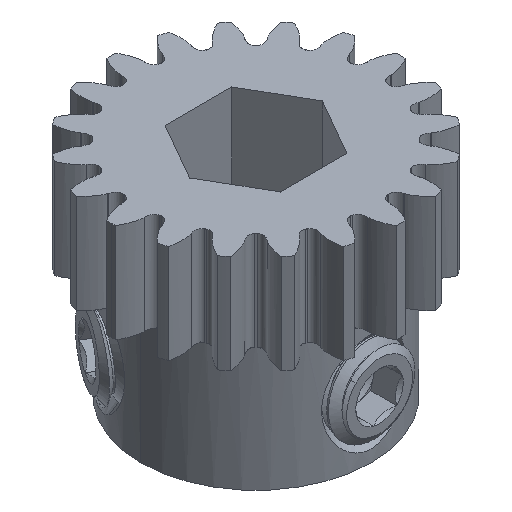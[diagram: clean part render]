
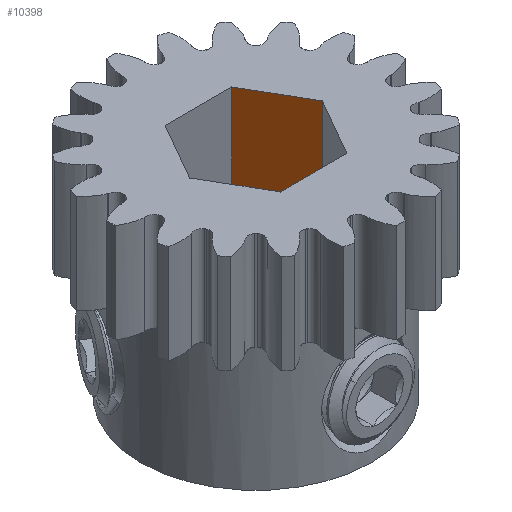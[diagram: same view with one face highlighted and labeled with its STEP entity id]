
A CAD part, isometric view. The second image highlights one B-rep face of the part: STEP entity #10398.
In plain terms, the highlighted planar face has unit normal (-0.866, -0.5, 0).
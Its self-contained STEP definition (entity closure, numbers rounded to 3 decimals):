
#287 = CARTESIAN_POINT ( 'NONE',  ( 2.021, 3.5, -8. ) ) ;
#1228 = EDGE_CURVE ( 'NONE', #20239, #5333, #3098, .T. ) ;
#2486 = CARTESIAN_POINT ( 'NONE',  ( 3.031, 1.75, 6. ) ) ;
#2581 = VECTOR ( 'NONE', #7313, 1000. ) ;
#3098 = LINE ( 'NONE', #2486, #2581 ) ;
#3298 = EDGE_CURVE ( 'NONE', #7391, #20239, #18274, .T. ) ;
#3802 = CARTESIAN_POINT ( 'NONE',  ( 3.031, 1.75, -19.092 ) ) ;
#5333 = VERTEX_POINT ( 'NONE', #15996 ) ;
#5591 = AXIS2_PLACEMENT_3D ( 'NONE', #3802, #15231, #7180 ) ;
#6133 = ORIENTED_EDGE ( 'NONE', *, *, #18257, .F. ) ;
#6154 = ORIENTED_EDGE ( 'NONE', *, *, #3298, .T. ) ;
#7102 = PLANE ( 'NONE',  #5591 ) ;
#7180 = DIRECTION ( 'NONE',  ( -0.5, 0.866, 0. ) ) ;
#7313 = DIRECTION ( 'NONE',  ( -0.5, 0.866, 0. ) ) ;
#7391 = VERTEX_POINT ( 'NONE', #9512 ) ;
#9139 = VECTOR ( 'NONE', #10775, 1000. ) ;
#9512 = CARTESIAN_POINT ( 'NONE',  ( 4.041, 0., -8. ) ) ;
#10225 = LINE ( 'NONE', #20972, #21275 ) ;
#10398 = ADVANCED_FACE ( 'NONE', ( #18931 ), #7102, .F. ) ;
#10775 = DIRECTION ( 'NONE',  ( 0.5, -0.866, 0. ) ) ;
#11203 = LINE ( 'NONE', #287, #9139 ) ;
#12265 = DIRECTION ( 'NONE',  ( 0., 0., 1. ) ) ;
#12871 = DIRECTION ( 'NONE',  ( 0., 0., 1. ) ) ;
#12963 = EDGE_CURVE ( 'NONE', #21037, #7391, #11203, .T. ) ;
#13286 = ORIENTED_EDGE ( 'NONE', *, *, #1228, .T. ) ;
#13932 = VECTOR ( 'NONE', #12265, 1000. ) ;
#15078 = ORIENTED_EDGE ( 'NONE', *, *, #12963, .T. ) ;
#15231 = DIRECTION ( 'NONE',  ( 0.866, 0.5, 0. ) ) ;
#15410 = CARTESIAN_POINT ( 'NONE',  ( 2.021, 3.5, -8. ) ) ;
#15996 = CARTESIAN_POINT ( 'NONE',  ( 2.021, 3.5, 6. ) ) ;
#18257 = EDGE_CURVE ( 'NONE', #21037, #5333, #10225, .T. ) ;
#18274 = LINE ( 'NONE', #20670, #13932 ) ;
#18816 = CARTESIAN_POINT ( 'NONE',  ( 4.041, 0., 6. ) ) ;
#18931 = FACE_OUTER_BOUND ( 'NONE', #20743, .T. ) ;
#20239 = VERTEX_POINT ( 'NONE', #18816 ) ;
#20670 = CARTESIAN_POINT ( 'NONE',  ( 4.041, 0., -19.092 ) ) ;
#20743 = EDGE_LOOP ( 'NONE', ( #6133, #15078, #6154, #13286 ) ) ;
#20972 = CARTESIAN_POINT ( 'NONE',  ( 2.021, 3.5, -19.092 ) ) ;
#21037 = VERTEX_POINT ( 'NONE', #15410 ) ;
#21275 = VECTOR ( 'NONE', #12871, 1000. ) ;
